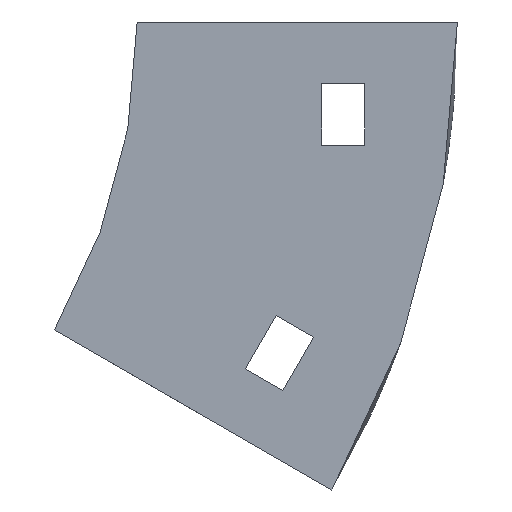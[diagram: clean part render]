
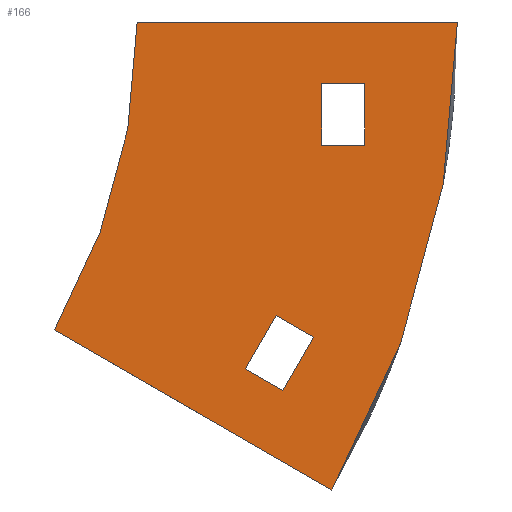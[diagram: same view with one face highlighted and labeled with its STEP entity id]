
A CAD part, left-side view. The second image highlights one B-rep face of the part: STEP entity #166.
In plain terms, the highlighted planar face has unit normal (-1, 0, 0).
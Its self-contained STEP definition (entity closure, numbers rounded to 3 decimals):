
#23 = DIRECTION ( 'NONE',  ( 0., 0.866, 0.5 ) ) ;
#25 = VERTEX_POINT ( 'NONE', #613 ) ;
#31 = AXIS2_PLACEMENT_3D ( 'NONE', #393, #142, #900 ) ;
#41 = DIRECTION ( 'NONE',  ( 0., 0.5, -0.866 ) ) ;
#53 = VERTEX_POINT ( 'NONE', #673 ) ;
#65 = CARTESIAN_POINT ( 'NONE',  ( -152., -23.645, -59.84 ) ) ;
#71 = VECTOR ( 'NONE', #872, 1000. ) ;
#77 = VECTOR ( 'NONE', #765, 1000. ) ;
#82 = ORIENTED_EDGE ( 'NONE', *, *, #516, .F. ) ;
#99 = EDGE_LOOP ( 'NONE', ( #435, #838, #82, #336 ) ) ;
#134 = EDGE_CURVE ( 'NONE', #753, #910, #184, .T. ) ;
#142 = DIRECTION ( 'NONE',  ( 1., 0., 0. ) ) ;
#146 = DIRECTION ( 'NONE',  ( 0., 0., -1. ) ) ;
#149 = PLANE ( 'NONE',  #31 ) ;
#164 = VECTOR ( 'NONE', #41, 1000. ) ;
#166 = ADVANCED_FACE ( 'NONE', ( #634, #555, #997 ), #149, .F. ) ;
#172 = VECTOR ( 'NONE', #694, 1000. ) ;
#177 = VERTEX_POINT ( 'NONE', #1103 ) ;
#181 = EDGE_CURVE ( 'NONE', #434, #443, #360, .T. ) ;
#184 = LINE ( 'NONE', #974, #1094 ) ;
#200 = LINE ( 'NONE', #489, #554 ) ;
#218 = ORIENTED_EDGE ( 'NONE', *, *, #683, .F. ) ;
#228 = CIRCLE ( 'NONE', #769, 152. ) ;
#232 = EDGE_CURVE ( 'NONE', #461, #177, #267, .T. ) ;
#260 = EDGE_CURVE ( 'NONE', #580, #753, #1100, .T. ) ;
#264 = VERTEX_POINT ( 'NONE', #951 ) ;
#267 = CIRCLE ( 'NONE', #894, 100. ) ;
#276 = CARTESIAN_POINT ( 'NONE',  ( -152., -28.645, -51.179 ) ) ;
#277 = EDGE_CURVE ( 'NONE', #599, #25, #832, .T. ) ;
#313 = CARTESIAN_POINT ( 'NONE',  ( -152., -37., -10. ) ) ;
#319 = EDGE_LOOP ( 'NONE', ( #870, #647, #1127, #808 ) ) ;
#333 = CARTESIAN_POINT ( 'NONE',  ( -152., -22.583, -47.679 ) ) ;
#336 = ORIENTED_EDGE ( 'NONE', *, *, #453, .F. ) ;
#339 = CARTESIAN_POINT ( 'NONE',  ( -152., -17.583, -56.34 ) ) ;
#340 = CARTESIAN_POINT ( 'NONE',  ( -152., -22.583, -47.679 ) ) ;
#341 = EDGE_CURVE ( 'NONE', #1146, #461, #384, .T. ) ;
#354 = LINE ( 'NONE', #961, #172 ) ;
#360 = LINE ( 'NONE', #65, #77 ) ;
#384 = LINE ( 'NONE', #1074, #945 ) ;
#393 = CARTESIAN_POINT ( 'NONE',  ( -152., 100., 0. ) ) ;
#397 = DIRECTION ( 'NONE',  ( -1., 0., 0. ) ) ;
#434 = VERTEX_POINT ( 'NONE', #607 ) ;
#435 = ORIENTED_EDGE ( 'NONE', *, *, #232, .F. ) ;
#443 = VERTEX_POINT ( 'NONE', #276 ) ;
#453 = EDGE_CURVE ( 'NONE', #177, #264, #869, .T. ) ;
#461 = VERTEX_POINT ( 'NONE', #777 ) ;
#489 = CARTESIAN_POINT ( 'NONE',  ( -152., -30., -10. ) ) ;
#508 = CARTESIAN_POINT ( 'NONE',  ( -152., 100., 0. ) ) ;
#516 = EDGE_CURVE ( 'NONE', #264, #1146, #228, .T. ) ;
#529 = EDGE_CURVE ( 'NONE', #910, #53, #1034, .T. ) ;
#547 = VECTOR ( 'NONE', #1012, 1000. ) ;
#554 = VECTOR ( 'NONE', #1087, 1000. ) ;
#555 = FACE_BOUND ( 'NONE', #319, .T. ) ;
#580 = VERTEX_POINT ( 'NONE', #1119 ) ;
#594 = DIRECTION ( 'NONE',  ( 0., 0., 1. ) ) ;
#596 = EDGE_LOOP ( 'NONE', ( #218, #698, #1030, #1148 ) ) ;
#599 = VERTEX_POINT ( 'NONE', #340 ) ;
#607 = CARTESIAN_POINT ( 'NONE',  ( -152., -23.645, -59.84 ) ) ;
#613 = CARTESIAN_POINT ( 'NONE',  ( -152., -17.583, -56.34 ) ) ;
#634 = FACE_OUTER_BOUND ( 'NONE', #99, .T. ) ;
#647 = ORIENTED_EDGE ( 'NONE', *, *, #1007, .T. ) ;
#653 = CARTESIAN_POINT ( 'NONE',  ( -152., 100., 0. ) ) ;
#673 = CARTESIAN_POINT ( 'NONE',  ( -152., -30., -10. ) ) ;
#683 = EDGE_CURVE ( 'NONE', #25, #434, #354, .T. ) ;
#694 = DIRECTION ( 'NONE',  ( 0., -0.866, -0.5 ) ) ;
#698 = ORIENTED_EDGE ( 'NONE', *, *, #277, .F. ) ;
#739 = CARTESIAN_POINT ( 'NONE',  ( -152., -30., -20. ) ) ;
#747 = LINE ( 'NONE', #333, #547 ) ;
#753 = VERTEX_POINT ( 'NONE', #881 ) ;
#765 = DIRECTION ( 'NONE',  ( 0., -0.5, 0.866 ) ) ;
#769 = AXIS2_PLACEMENT_3D ( 'NONE', #653, #839, #946 ) ;
#777 = CARTESIAN_POINT ( 'NONE',  ( -152., 13.397, -50. ) ) ;
#808 = ORIENTED_EDGE ( 'NONE', *, *, #134, .T. ) ;
#832 = LINE ( 'NONE', #339, #164 ) ;
#838 = ORIENTED_EDGE ( 'NONE', *, *, #341, .F. ) ;
#839 = DIRECTION ( 'NONE',  ( 1., 0., 0. ) ) ;
#847 = VECTOR ( 'NONE', #146, 1000. ) ;
#851 = DIRECTION ( 'NONE',  ( 0., 0., -1. ) ) ;
#869 = LINE ( 'NONE', #966, #71 ) ;
#870 = ORIENTED_EDGE ( 'NONE', *, *, #529, .T. ) ;
#872 = DIRECTION ( 'NONE',  ( 0., -1., 0. ) ) ;
#881 = CARTESIAN_POINT ( 'NONE',  ( -152., -37., -20. ) ) ;
#882 = CARTESIAN_POINT ( 'NONE',  ( -152., -31.636, -76. ) ) ;
#893 = EDGE_CURVE ( 'NONE', #443, #599, #747, .T. ) ;
#894 = AXIS2_PLACEMENT_3D ( 'NONE', #508, #397, #851 ) ;
#900 = DIRECTION ( 'NONE',  ( 0., 0., -1. ) ) ;
#910 = VERTEX_POINT ( 'NONE', #739 ) ;
#916 = VECTOR ( 'NONE', #594, 1000. ) ;
#945 = VECTOR ( 'NONE', #23, 1000. ) ;
#946 = DIRECTION ( 'NONE',  ( 0., 0., -1. ) ) ;
#951 = CARTESIAN_POINT ( 'NONE',  ( -152., -52., 0. ) ) ;
#961 = CARTESIAN_POINT ( 'NONE',  ( -152., -17.583, -56.34 ) ) ;
#966 = CARTESIAN_POINT ( 'NONE',  ( -152., -52., 0. ) ) ;
#974 = CARTESIAN_POINT ( 'NONE',  ( -152., -30., -20. ) ) ;
#997 = FACE_BOUND ( 'NONE', #596, .T. ) ;
#1007 = EDGE_CURVE ( 'NONE', #53, #580, #200, .T. ) ;
#1012 = DIRECTION ( 'NONE',  ( 0., 0.866, 0.5 ) ) ;
#1030 = ORIENTED_EDGE ( 'NONE', *, *, #893, .F. ) ;
#1034 = LINE ( 'NONE', #1044, #916 ) ;
#1044 = CARTESIAN_POINT ( 'NONE',  ( -152., -30., -10. ) ) ;
#1074 = CARTESIAN_POINT ( 'NONE',  ( -152., 13.397, -50. ) ) ;
#1077 = DIRECTION ( 'NONE',  ( 0., 1., 0. ) ) ;
#1087 = DIRECTION ( 'NONE',  ( 0., -1., 0. ) ) ;
#1094 = VECTOR ( 'NONE', #1077, 1000. ) ;
#1100 = LINE ( 'NONE', #313, #847 ) ;
#1103 = CARTESIAN_POINT ( 'NONE',  ( -152., 0., 0. ) ) ;
#1119 = CARTESIAN_POINT ( 'NONE',  ( -152., -37., -10. ) ) ;
#1127 = ORIENTED_EDGE ( 'NONE', *, *, #260, .T. ) ;
#1146 = VERTEX_POINT ( 'NONE', #882 ) ;
#1148 = ORIENTED_EDGE ( 'NONE', *, *, #181, .F. ) ;
